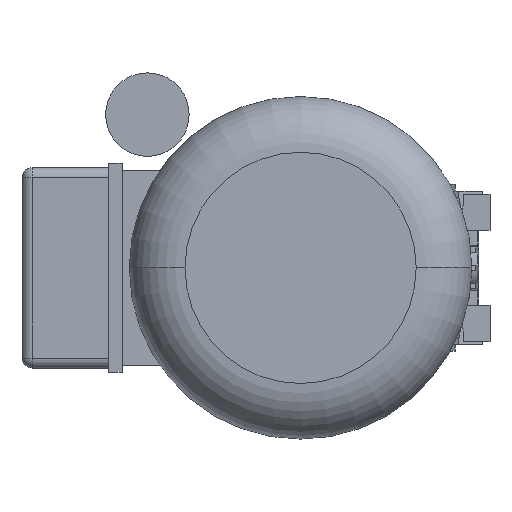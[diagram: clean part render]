
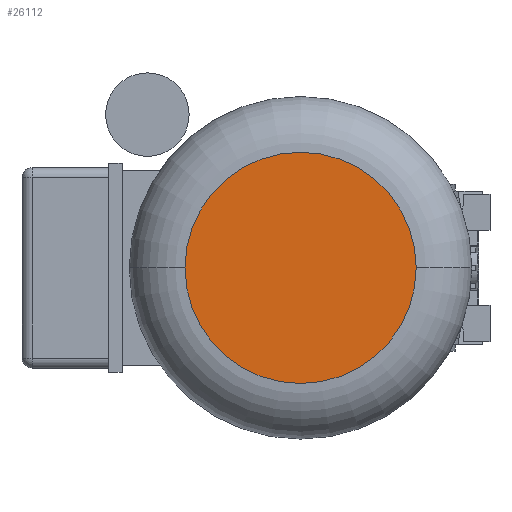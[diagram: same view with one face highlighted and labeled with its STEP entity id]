
A CAD part, left-side view. The second image highlights one B-rep face of the part: STEP entity #26112.
In plain terms, the highlighted planar face has unit normal (-1, 0, 0) as drawn and (0, 0, -1) by its records, which use the part's own axes.
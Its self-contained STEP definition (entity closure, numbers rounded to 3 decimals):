
#2090 = VERTEX_POINT ( 'NONE', #18372 ) ;
#2790 = CARTESIAN_POINT ( 'NONE',  ( 0., 0., -167.5 ) ) ;
#3101 = FACE_OUTER_BOUND ( 'NONE', #16862, .T. ) ;
#3656 = CARTESIAN_POINT ( 'NONE',  ( 0., 0., -167.5 ) ) ;
#5748 = CIRCLE ( 'NONE', #13390, 41.5 ) ;
#7160 = AXIS2_PLACEMENT_3D ( 'NONE', #3656, #26652, #8316 ) ;
#7442 = DIRECTION ( 'NONE',  ( 0., 0., -1. ) ) ;
#8316 = DIRECTION ( 'NONE',  ( 0., 1., 0. ) ) ;
#13390 = AXIS2_PLACEMENT_3D ( 'NONE', #2790, #7442, #17084 ) ;
#14804 = EDGE_CURVE ( 'NONE', #22034, #2090, #15904, .T. ) ;
#14884 = ORIENTED_EDGE ( 'NONE', *, *, #24112, .T. ) ;
#15904 = CIRCLE ( 'NONE', #7160, 41.5 ) ;
#15943 = DIRECTION ( 'NONE',  ( -1., 0., 0. ) ) ;
#16862 = EDGE_LOOP ( 'NONE', ( #14884, #16867 ) ) ;
#16867 = ORIENTED_EDGE ( 'NONE', *, *, #14804, .T. ) ;
#17084 = DIRECTION ( 'NONE',  ( 0., 1., 0. ) ) ;
#18066 = DIRECTION ( 'NONE',  ( 0., 0., -1. ) ) ;
#18345 = CARTESIAN_POINT ( 'NONE',  ( 0., -41.5, -167.5 ) ) ;
#18372 = CARTESIAN_POINT ( 'NONE',  ( 0., 41.5, -167.5 ) ) ;
#22034 = VERTEX_POINT ( 'NONE', #18345 ) ;
#22623 = CARTESIAN_POINT ( 'NONE',  ( 0., 0., -167.5 ) ) ;
#23722 = AXIS2_PLACEMENT_3D ( 'NONE', #22623, #18066, #15943 ) ;
#24112 = EDGE_CURVE ( 'NONE', #2090, #22034, #5748, .T. ) ;
#25166 = PLANE ( 'NONE',  #23722 ) ;
#26112 = ADVANCED_FACE ( 'NONE', ( #3101 ), #25166, .T. ) ;
#26652 = DIRECTION ( 'NONE',  ( 0., 0., -1. ) ) ;
